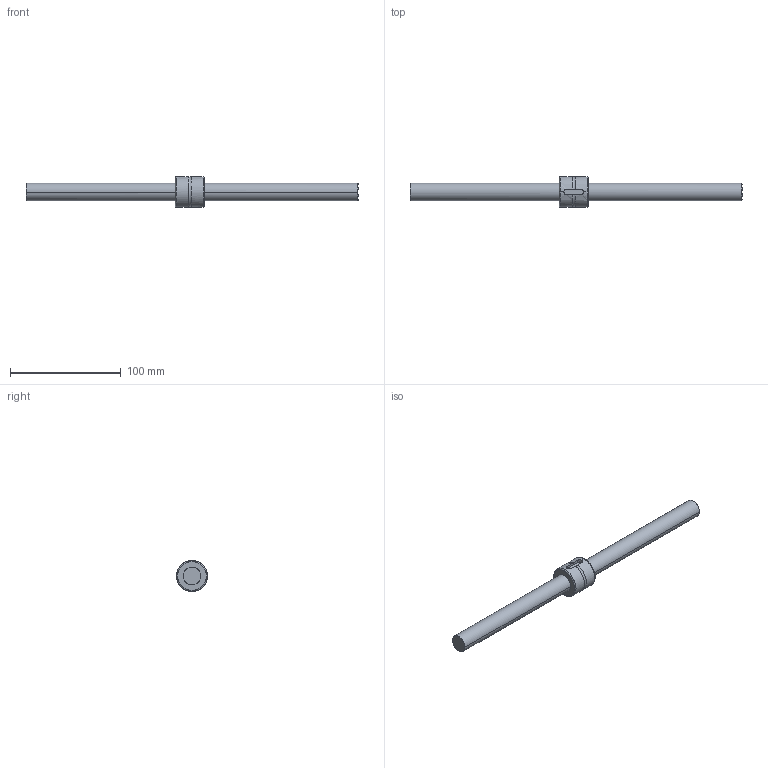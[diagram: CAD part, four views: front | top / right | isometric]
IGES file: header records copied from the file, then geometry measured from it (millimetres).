
Global section: file name: No Iges File Name specified; native system: AutoDesk Inventor R10; preprocessor: AutoDesk Inventor Iges Exporter R10; author: No Author specified; organization: No Organization specified; date: 20101224.155109; units: millimetre
Bounding box: 300 x 28 x 28 mm (x, y, z)
Surface area: 19963.6 mm2 (no closed solid volume)
Topology: 0 solids, 0 shells, 25 faces, 216 edges, 216 vertices
Faces by surface type: bspline 25
